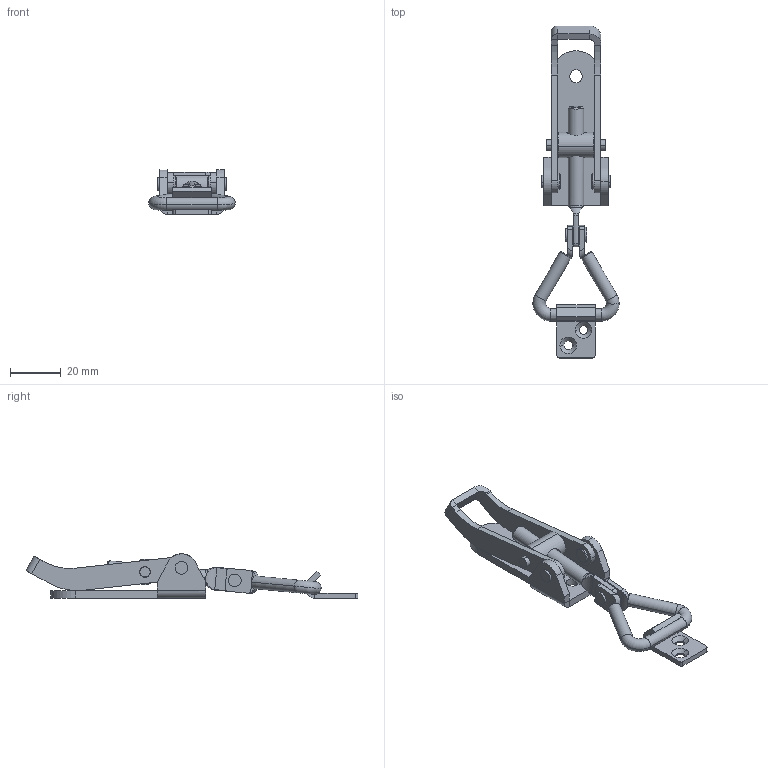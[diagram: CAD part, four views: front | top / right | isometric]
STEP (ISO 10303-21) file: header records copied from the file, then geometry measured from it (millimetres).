
FILE_DESCRIPTION (( 'STEP AP214' ), '1' );
FILE_NAME ('3.St265.002.STEP', '2017-11-10T12:23:04', ( '' ), ( '' ), 'SwSTEP 2.0', 'SolidWorks 2015', '' );
FILE_SCHEMA (( 'AUTOMOTIVE_DESIGN' ));
Length unit declared in the file: millimetre
Products named in the file (11): 5.F04.009.06_A; 5.F04.009.20_A; 5.F04.009.07_B.1; 5.F04.009.04_A; 5.F04.009.05_A; 5.F04.009.10_A; 5.F04.009.07_A.1; 5.F04.009.03_A; 5.F04.009.02_A; 5.F04.009.01_A; 3.St265.002
Assembly tree (11 placements, depth 3):
  3.St265.002
    5.F04.009.10_A
      5.F04.009.01_A
      5.F04.009.02_A
      5.F04.009.03_A
      5.F04.009.07_A.1  x2
    5.F04.009.20_A
      5.F04.009.05_A
      5.F04.009.04_A
      5.F04.009.07_B.1
    5.F04.009.06_A
Bounding box: 34 x 130.7 x 17.5 mm (x, y, z)
Volume: 13019.1 mm3; surface area: 12381.2 mm2
Topology: 9 solids, 9 shells, 234 faces, 547 edges, 342 vertices
Faces by surface type: cylinder 112, plane 94, cone 16, torus 8, bspline 4
Entity records: 7281 total; most frequent: CARTESIAN_POINT 1694, DIRECTION 1123, ORIENTED_EDGE 1038, EDGE_CURVE 519, AXIS2_PLACEMENT_3D 435, VERTEX_POINT 324, EDGE_LOOP 255, LINE 253
